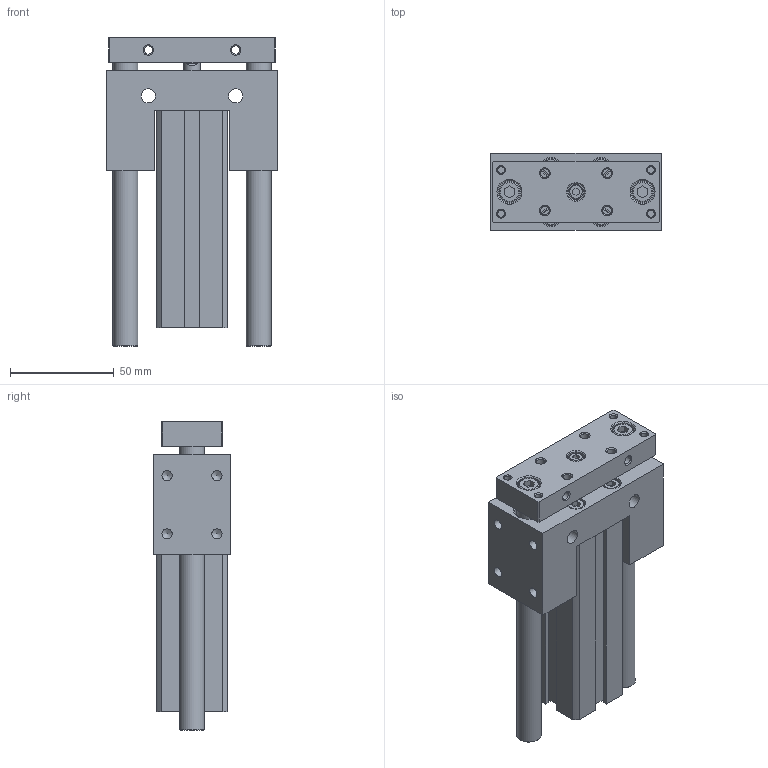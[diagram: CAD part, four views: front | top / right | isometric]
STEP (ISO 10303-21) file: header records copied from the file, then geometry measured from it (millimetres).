
FILE_DESCRIPTION((''),'2;1');
FILE_NAME('I:\3D電子目錄\氣缸\JCB\JCB\JCB20\JCB20x85.stp','2007-08-21T18:19:59',('Administrator'),(''),'Autodesk Inventor 11','Autodesk Inventor 11','');
FILE_SCHEMA(('AUTOMOTIVE_DESIGN { 1 0 10303 214 1 1 1 1 }'));
Length unit declared in the file: millimetre
Products named in the file (1): JCB20
Bounding box: 82 x 37 x 148.5 mm (x, y, z)
Volume: 241085.2 mm3; surface area: 75263.4 mm2
Topology: 5 solids, 5 shells, 293 faces, 643 edges, 415 vertices
Faces by surface type: plane 150, bspline 53, cylinder 45, cone 37, torus 8
Full cylindrical faces by diameter (mm): 1.5 x2, 4.3 x4, 4.917 x4, 7 x9, 8 x1, 8.5 x4, 9 x1, 10 x2, 12 x2, 13 x2, 14 x2, 22 x4, 23.2 x2
Entity records: 7875 total; most frequent: CARTESIAN_POINT 1985, DIRECTION 1184, ORIENTED_EDGE 992, EDGE_LOOP 504, EDGE_CURVE 496, AXIS2_PLACEMENT_3D 447, VERTEX_POINT 394, FACE_OUTER_BOUND 293
